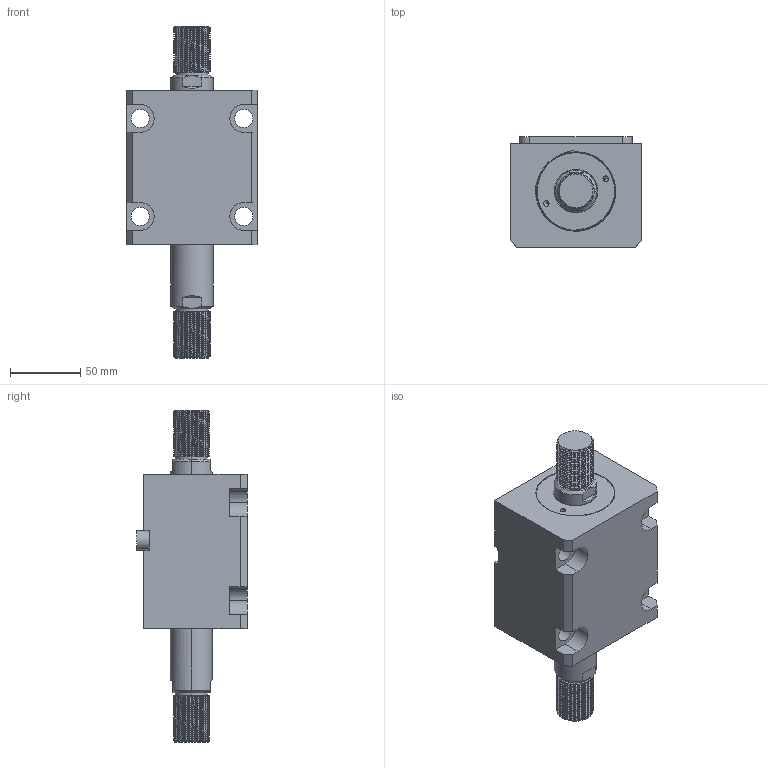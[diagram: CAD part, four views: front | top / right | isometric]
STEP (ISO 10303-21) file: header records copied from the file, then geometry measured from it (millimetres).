
FILE_DESCRIPTION (( 'STEP AP203' ), '1' );
FILE_NAME ('CHTB-LWM50-35W.STEP', '2018-05-22T08:18:59', ( '' ), ( '' ), 'SwSTEP 2.0', 'SolidWorks 2015', '' );
FILE_SCHEMA (( 'CONFIG_CONTROL_DESIGN' ));
Length unit declared in the file: millimetre
Products named in the file (4): 活塞杆LWM50-35W; 掛极LWM50-35W; CHTB-LWM50-35W; CHTM-SDMA50QG
Assembly tree (3 placements, depth 2):
  CHTB-LWM50-35W
    掛极LWM50-35W
    CHTM-SDMA50QG
    活塞杆LWM50-35W
Bounding box: 94 x 79 x 237 mm (x, y, z)
Volume: 742548.9 mm3; surface area: 123489.8 mm2
Topology: 3 solids, 3 shells, 302 faces, 837 edges, 557 vertices
Faces by surface type: cylinder 188, plane 62, cone 18, bspline 18, torus 16
Entity records: 19248 total; most frequent: CARTESIAN_POINT 11864, ORIENTED_EDGE 1666, DIRECTION 1265, EDGE_CURVE 833, VERTEX_POINT 557, AXIS2_PLACEMENT_3D 483, EDGE_LOOP 338, FACE_OUTER_BOUND 302
